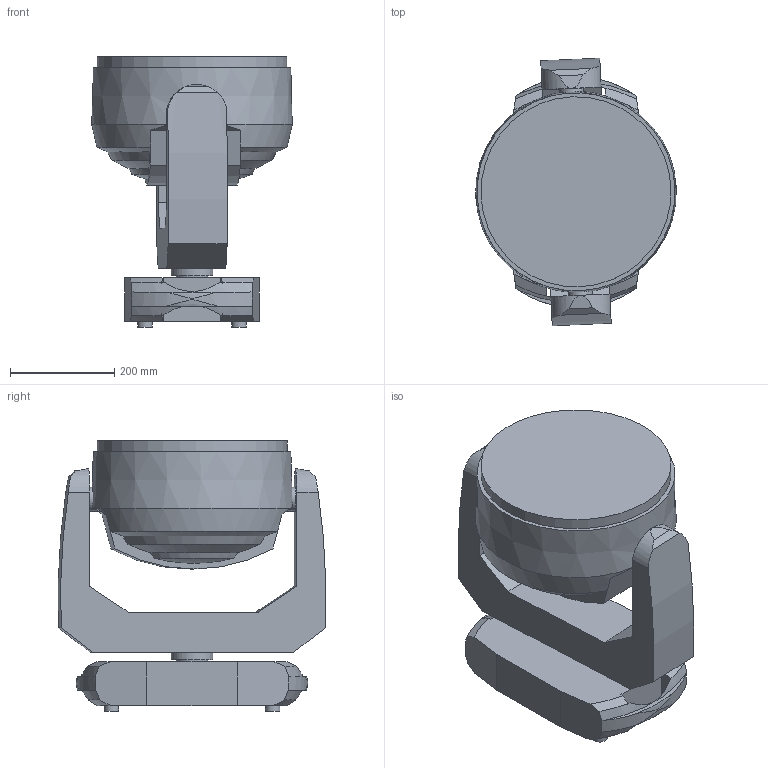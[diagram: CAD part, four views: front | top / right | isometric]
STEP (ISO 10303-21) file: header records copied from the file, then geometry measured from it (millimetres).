
FILE_DESCRIPTION(/* description */ ('Unknown'),/* implementation_level */ '2;1');
FILE_NAME(/* name */ '3D_Tarrantula_00',/* time_stamp */ '2018-04-05T10:31:34+02:00',/* author */ ('Unknown'),/* organization */ ('Unknown'),/* preprocessor_version */ 'ST-DEVELOPER v16.7',/* originating_system */ 'DEX',/* authorisation */ $);
FILE_SCHEMA (('AUTOMOTIVE_DESIGN {1 0 10303 214 3 1 1}'));
Length unit declared in the file: millimetre
Products named in the file (4): 3D_Tarrantula; Tarrantula_Base; Tarrantula_Arm; Tarrantula_Head
Assembly tree (3 placements, depth 2):
  3D_Tarrantula
    Tarrantula_Base
    Tarrantula_Arm
    Tarrantula_Head
Bounding box: 385.63 x 514.25 x 519.99 mm (x, y, z)
Volume: 40037723.3 mm3; surface area: 1209408.8 mm2
Topology: 4 solids, 4 shells, 110 faces, 286 edges, 191 vertices
Faces by surface type: plane 54, cylinder 25, cone 25, torus 6
Full cylindrical faces by diameter (mm): 9.354 x4, 27.957 x4, 45 x2, 45.904 x1, 60 x1, 80 x1, 365.471 x1
Entity records: 3646 total; most frequent: CARTESIAN_POINT 976, ORIENTED_EDGE 530, DIRECTION 522, EDGE_CURVE 265, AXIS2_PLACEMENT_3D 221, VERTEX_POINT 185, EDGE_LOOP 136, FACE_BOUND 136
